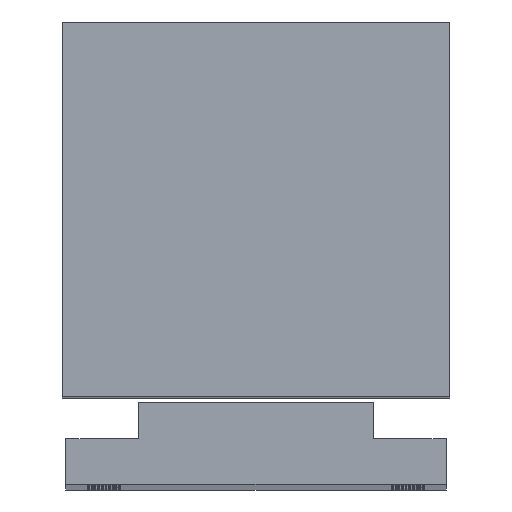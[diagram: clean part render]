
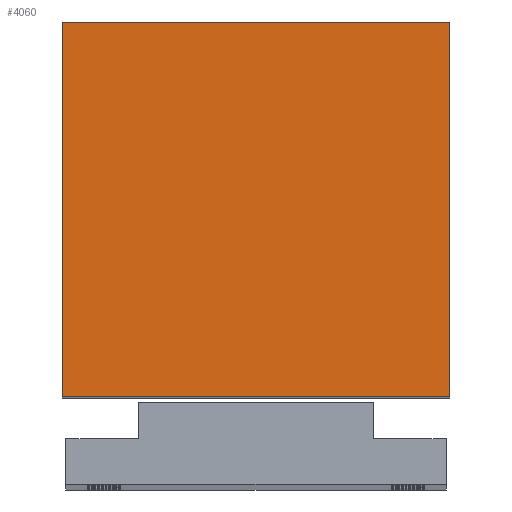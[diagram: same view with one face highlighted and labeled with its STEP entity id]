
A CAD part, top view. The second image highlights one B-rep face of the part: STEP entity #4060.
In plain terms, the highlighted planar face has unit normal (0, 0, 1) as drawn and (-1, 0, 0) by its records, which use the part's own axes.
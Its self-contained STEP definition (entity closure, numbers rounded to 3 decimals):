
#184 = DIRECTION ( 'NONE',  ( 0., 0., -1. ) ) ;
#198 = ORIENTED_EDGE ( 'NONE', *, *, #4012, .T. ) ;
#492 = DIRECTION ( 'NONE',  ( 0., -1., 0. ) ) ;
#501 = VECTOR ( 'NONE', #4791, 1000. ) ;
#681 = VERTEX_POINT ( 'NONE', #1366 ) ;
#683 = EDGE_CURVE ( 'NONE', #1105, #681, #2356, .T. ) ;
#685 = DIRECTION ( 'NONE',  ( 0., 0., -1. ) ) ;
#774 = EDGE_CURVE ( 'NONE', #1105, #1499, #2475, .T. ) ;
#1105 = VERTEX_POINT ( 'NONE', #1182 ) ;
#1182 = CARTESIAN_POINT ( 'NONE',  ( -56., 25.5, 49.3 ) ) ;
#1293 = CARTESIAN_POINT ( 'NONE',  ( -56., -25.5, 0. ) ) ;
#1365 = AXIS2_PLACEMENT_3D ( 'NONE', #4682, #3198, #184 ) ;
#1366 = CARTESIAN_POINT ( 'NONE',  ( -56., -25.5, 49.3 ) ) ;
#1434 = ORIENTED_EDGE ( 'NONE', *, *, #774, .T. ) ;
#1455 = VECTOR ( 'NONE', #685, 1000. ) ;
#1499 = VERTEX_POINT ( 'NONE', #2206 ) ;
#1772 = EDGE_LOOP ( 'NONE', ( #198, #1828, #4362, #1434 ) ) ;
#1828 = ORIENTED_EDGE ( 'NONE', *, *, #3717, .F. ) ;
#1899 = LINE ( 'NONE', #2927, #501 ) ;
#2206 = CARTESIAN_POINT ( 'NONE',  ( -56., 25.5, 0. ) ) ;
#2233 = VECTOR ( 'NONE', #492, 1000. ) ;
#2356 = LINE ( 'NONE', #3609, #2233 ) ;
#2392 = CARTESIAN_POINT ( 'NONE',  ( -56., -25.5, 0. ) ) ;
#2456 = VERTEX_POINT ( 'NONE', #1293 ) ;
#2475 = LINE ( 'NONE', #4091, #1455 ) ;
#2684 = FACE_OUTER_BOUND ( 'NONE', #1772, .T. ) ;
#2927 = CARTESIAN_POINT ( 'NONE',  ( -56., -25.5, 49.3 ) ) ;
#2979 = LINE ( 'NONE', #2392, #4712 ) ;
#3198 = DIRECTION ( 'NONE',  ( 1., 0., 0. ) ) ;
#3609 = CARTESIAN_POINT ( 'NONE',  ( -56., -25.5, 49.3 ) ) ;
#3717 = EDGE_CURVE ( 'NONE', #681, #2456, #1899, .T. ) ;
#3881 = DIRECTION ( 'NONE',  ( 0., -1., 0. ) ) ;
#3913 = PLANE ( 'NONE',  #1365 ) ;
#4012 = EDGE_CURVE ( 'NONE', #1499, #2456, #2979, .T. ) ;
#4060 = ADVANCED_FACE ( 'NONE', ( #2684 ), #3913, .F. ) ;
#4091 = CARTESIAN_POINT ( 'NONE',  ( -56., 25.5, 49.3 ) ) ;
#4362 = ORIENTED_EDGE ( 'NONE', *, *, #683, .F. ) ;
#4682 = CARTESIAN_POINT ( 'NONE',  ( -56., -25.5, 49.3 ) ) ;
#4712 = VECTOR ( 'NONE', #3881, 1000. ) ;
#4791 = DIRECTION ( 'NONE',  ( 0., 0., -1. ) ) ;
